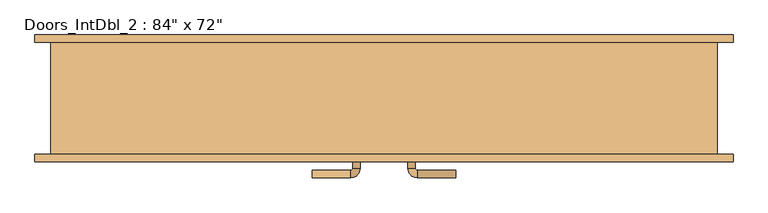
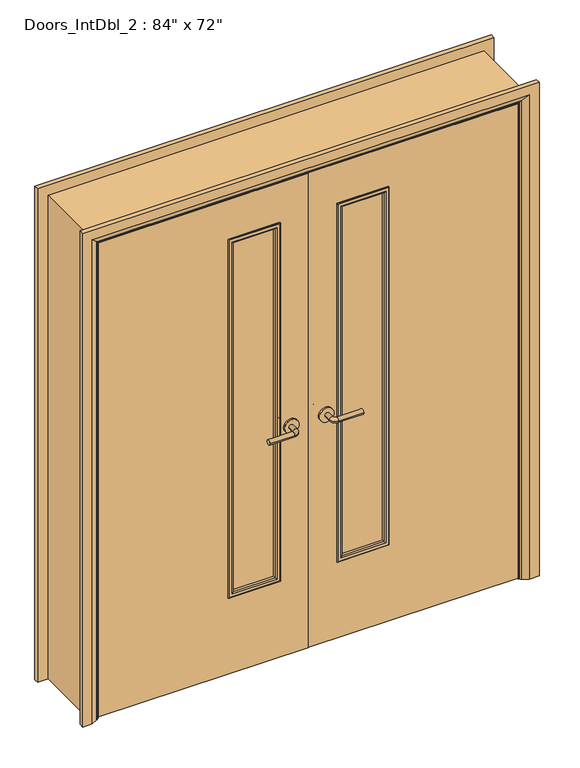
"""IFC4 building model written with IfcOpenShell, lengths in millimetres: door geometry."""

from ifc_helpers import new_model, si_unit, point, frame, frame_2d, origin, place, context, project, spatial, polyline, circle_curve, ellipse_curve, trimmed, segment, composite_curve, outline, extrude, faceted_brep, source, transform, mapped, element, save
from ifc_brep_helpers import plane_surface, cylinder_surface, revolved_surface, advanced_brep


def door_0f628c30(model_context):
    return source(origin(), model_context, "Body", "SolidModel", [
        advanced_brep(
        [(-65.0, -112.4, 1007.0), (-85.0, -112.4, 1007.0), (-85.0, -82.4, 1007.0), (-65.0, -82.4, 1007.0), (-90.0, -77.4, 1007.0), (-90.0, -57.4, 1007.0), (-195.0, -57.4, 1007.0), (-195.0, -77.4, 1007.0)],
        [
            (0, 1, circle_curve(frame((-75.0, -112.4, 1007.0), z_axis=(0.0, -1.0, 0.0), x_axis=(-1.0, 0.0, 0.0)), 10.0)),
            (1, 0, circle_curve(frame((-75.0, -112.4, 1007.0), z_axis=(0.0, -1.0, 0.0), x_axis=(-1.0, 0.0, 0.0)), 10.0)),
            (1, 2),
            (2, 3, circle_curve(frame((-75.0, -82.4, 1007.0), z_axis=(0.0, -1.0, 0.0), x_axis=(-1.0, 0.0, 0.0)), 10.0)),
            (3, 0),
            (3, 2, circle_curve(frame((-75.0, -82.4, 1007.0), z_axis=(0.0, -1.0, 0.0), x_axis=(-1.0, 0.0, 0.0)), 10.0)),
            (4, 5, circle_curve(frame((-90.0, -67.4, 1007.0), z_axis=(1.0, 0.0, 0.0), x_axis=(0.0, -1.0, 0.0)), 10.0)),
            (5, 3, circle_curve(frame((-90.0, -82.4, 1007.0), z_axis=(0.0, 0.0, -1.0), x_axis=(1.0, 0.0, 0.0)), 25.0)),
            (2, 4, circle_curve(frame((-90.0, -82.4, 1007.0), z_axis=(0.0, 0.0, 1.0), x_axis=(1.0, 0.0, 0.0)), 5.0)),
            (5, 4, circle_curve(frame((-90.0, -67.4, 1007.0), z_axis=(1.0, 0.0, 0.0), x_axis=(0.0, -1.0, 0.0)), 10.0)),
            (6, 7, circle_curve(frame((-195.0, -67.4, 1007.0), z_axis=(-1.0, 0.0, 0.0), x_axis=(0.0, -1.0, 0.0)), 10.0)),
            (7, 6, circle_curve(frame((-195.0, -67.4, 1007.0), z_axis=(-1.0, 0.0, 0.0), x_axis=(0.0, -1.0, 0.0)), 10.0)),
            (4, 7),
            (6, 5),
        ],
        [
            plane_surface(frame((-75.0, -112.4, 1007.0), z_axis=(0.0, -1.0, 0.0), x_axis=(0.0, 0.0, 1.0))),
            cylinder_surface(frame((-75.0, -112.4, 1007.0), z_axis=(0.0, -1.0, 0.0), x_axis=(-1.0, 0.0, 0.0)), 10.0),
            revolved_surface(trimmed(ellipse_curve(frame((-75.0, -82.4, 1007.0), z_axis=(0.0, 1.0, 0.0), x_axis=(-1.0, 0.0, 0.0)), 10.0, 10.0), [point((-65.0, -82.4, 1007.0))], [point((-85.0, -82.4, 1007.0))], True, "CARTESIAN"), (-90.0, -82.4, 1007.0), (0.0, 0.0, -1.0)),
            revolved_surface(trimmed(ellipse_curve(frame((-75.0, -82.4, 1007.0), z_axis=(0.0, 1.0, 0.0), x_axis=(-1.0, 0.0, 0.0)), 10.0, 10.0), [point((-85.0, -82.4, 1007.0))], [point((-65.0, -82.4, 1007.0))], True, "CARTESIAN"), (-90.0, -82.4, 1007.0), (0.0, 0.0, -1.0)),
            plane_surface(frame((-195.0, -67.4, 1007.0), z_axis=(-1.0, 0.0, 0.0), x_axis=(0.0, 0.0, 1.0))),
            cylinder_surface(frame((-90.0, -67.4, 1007.0), z_axis=(1.0, 0.0, 0.0), x_axis=(0.0, -1.0, 0.0)), 10.0),
        ],
        [
            (0, [[1, 2]]),
            (1, [[3, 4, 5, -2]]),
            (1, [[-5, 6, -3, -1]]),
            (2, [[7, 8, -4, 9]]),
            (3, [[10, -9, -6, -8]]),
            (4, [[11, 12]]),
            (5, [[13, -11, 14, -7]]),
            (5, [[-14, -12, -13, -10]]),
        ],
    ),
        extrude(outline(composite_curve([segment(trimmed(circle_curve(frame_2d((1007.0, -72.5)), 30.0), [point((1007.0, -42.5))], [point((1007.0, -102.5))], False, "CARTESIAN"), True, "CONTINUOUS"), segment(trimmed(circle_curve(frame_2d((1007.0, -72.5)), 30.0), [point((1007.0, -102.5))], [point((1007.0, -42.5))], False, "CARTESIAN"), True, "CONTINUOUS")], self_intersect=False)), frame((0.0, -120.4, 0.0), z_axis=(0.0, 1.0, 0.0), x_axis=(0.0, 0.0, 1.0)), (0.0, 0.0, 1.0), 8.0),
        advanced_brep(
        [(-65.0, -160.4, 1007.0), (-85.0, -160.4, 1007.0), (-65.0, -190.4, 1007.0), (-85.0, -190.4, 1007.0), (-90.0, -195.4, 1007.0), (-90.0, -215.4, 1007.0), (-195.0, -215.4, 1007.0), (-195.0, -195.4, 1007.0)],
        [
            (0, 1, circle_curve(frame((-75.0, -160.4, 1007.0), z_axis=(0.0, 1.0, 0.0), x_axis=(-1.0, 0.0, 0.0)), 10.0)),
            (1, 0, circle_curve(frame((-75.0, -160.4, 1007.0), z_axis=(0.0, 1.0, 0.0), x_axis=(-1.0, 0.0, 0.0)), 10.0)),
            (0, 2),
            (2, 3, circle_curve(frame((-75.0, -190.4, 1007.0), z_axis=(0.0, 1.0, 0.0), x_axis=(-1.0, 0.0, 0.0)), 10.0)),
            (3, 1),
            (3, 2, circle_curve(frame((-75.0, -190.4, 1007.0), z_axis=(0.0, 1.0, 0.0), x_axis=(-1.0, 0.0, 0.0)), 10.0)),
            (4, 3, circle_curve(frame((-90.0, -190.4, 1007.0), z_axis=(0.0, 0.0, 1.0), x_axis=(1.0, 0.0, 0.0)), 5.0)),
            (2, 5, circle_curve(frame((-90.0, -190.4, 1007.0), z_axis=(0.0, 0.0, -1.0), x_axis=(1.0, 0.0, 0.0)), 25.0)),
            (5, 4, circle_curve(frame((-90.0, -205.4, 1007.0), z_axis=(1.0, 0.0, 0.0), x_axis=(0.0, 1.0, 0.0)), 10.0)),
            (4, 5, circle_curve(frame((-90.0, -205.4, 1007.0), z_axis=(1.0, 0.0, 0.0), x_axis=(0.0, 1.0, 0.0)), 10.0)),
            (6, 7, circle_curve(frame((-195.0, -205.4, 1007.0), z_axis=(-1.0, 0.0, 0.0), x_axis=(0.0, 1.0, 0.0)), 10.0)),
            (7, 6, circle_curve(frame((-195.0, -205.4, 1007.0), z_axis=(-1.0, 0.0, 0.0), x_axis=(0.0, 1.0, 0.0)), 10.0)),
            (5, 6),
            (7, 4),
        ],
        [
            plane_surface(frame((-75.0, -160.4, 1007.0), z_axis=(0.0, 1.0, 0.0), x_axis=(0.0, 0.0, 1.0))),
            cylinder_surface(frame((-75.0, -160.4, 1007.0), z_axis=(0.0, 1.0, 0.0), x_axis=(-1.0, 0.0, 0.0)), 10.0),
            revolved_surface(trimmed(ellipse_curve(frame((-75.0, -190.4, 1007.0), z_axis=(0.0, 1.0, 0.0), x_axis=(-1.0, 0.0, 0.0)), 10.0, 10.0), [point((-65.0, -190.4, 1007.0))], [point((-85.0, -190.4, 1007.0))], True, "CARTESIAN"), (-90.0, -190.4, 1007.0), (0.0, 0.0, -1.0)),
            revolved_surface(trimmed(ellipse_curve(frame((-75.0, -190.4, 1007.0), z_axis=(0.0, 1.0, 0.0), x_axis=(-1.0, 0.0, 0.0)), 10.0, 10.0), [point((-85.0, -190.4, 1007.0))], [point((-65.0, -190.4, 1007.0))], True, "CARTESIAN"), (-90.0, -190.4, 1007.0), (0.0, 0.0, -1.0)),
            plane_surface(frame((-195.0, -205.4, 1007.0), z_axis=(-1.0, 0.0, 0.0), x_axis=(0.0, 0.0, 1.0))),
            cylinder_surface(frame((-90.0, -205.4, 1007.0), z_axis=(1.0, 0.0, 0.0), x_axis=(0.0, 1.0, 0.0)), 10.0),
        ],
        [
            (0, [[1, 2]]),
            (1, [[-1, 3, 4, 5]]),
            (1, [[-2, -5, 6, -3]]),
            (2, [[7, -4, 8, 9]]),
            (3, [[-8, -6, -7, 10]]),
            (4, [[11, 12]]),
            (5, [[-9, 13, -12, 14]]),
            (5, [[-10, -14, -11, -13]]),
        ],
    ),
        extrude(outline(composite_curve([segment(trimmed(circle_curve(frame_2d((1007.0, -72.5)), 30.0), [point((1007.0, -42.5))], [point((1007.0, -102.5))], False, "CARTESIAN"), True, "CONTINUOUS"), segment(trimmed(circle_curve(frame_2d((1007.0, -72.5)), 30.0), [point((1007.0, -102.5))], [point((1007.0, -42.5))], False, "CARTESIAN"), True, "CONTINUOUS")], self_intersect=False)), frame((0.0, -160.4, 0.0), z_axis=(0.0, 1.0, 0.0), x_axis=(0.0, 0.0, 1.0)), (0.0, 0.0, 1.0), 8.0),
        advanced_brep(
        [(65.0, -112.4, 1007.0), (85.0, -112.4, 1007.0), (65.0, -82.4, 1007.0), (85.0, -82.4, 1007.0), (90.0, -77.4, 1007.0), (90.0, -57.4, 1007.0), (195.0, -57.4, 1007.0), (195.0, -77.4, 1007.0)],
        [
            (0, 1, circle_curve(frame((75.0, -112.4, 1007.0), z_axis=(0.0, -1.0, 0.0), x_axis=(1.0, 0.0, 0.0)), 10.0)),
            (1, 0, circle_curve(frame((75.0, -112.4, 1007.0), z_axis=(0.0, -1.0, 0.0), x_axis=(1.0, 0.0, 0.0)), 10.0)),
            (0, 2),
            (2, 3, circle_curve(frame((75.0, -82.4, 1007.0), z_axis=(0.0, -1.0, 0.0), x_axis=(1.0, 0.0, 0.0)), 10.0)),
            (3, 1),
            (3, 2, circle_curve(frame((75.0, -82.4, 1007.0), z_axis=(0.0, -1.0, 0.0), x_axis=(1.0, 0.0, 0.0)), 10.0)),
            (4, 3, circle_curve(frame((90.0, -82.4, 1007.0), z_axis=(0.0, 0.0, 1.0), x_axis=(-1.0, 0.0, 0.0)), 5.0)),
            (2, 5, circle_curve(frame((90.0, -82.4, 1007.0), z_axis=(0.0, 0.0, -1.0), x_axis=(-1.0, 0.0, 0.0)), 25.0)),
            (5, 4, circle_curve(frame((90.0, -67.4, 1007.0), z_axis=(-1.0, 0.0, 0.0), x_axis=(0.0, -1.0, 0.0)), 10.0)),
            (4, 5, circle_curve(frame((90.0, -67.4, 1007.0), z_axis=(-1.0, 0.0, 0.0), x_axis=(0.0, -1.0, 0.0)), 10.0)),
            (6, 7, circle_curve(frame((195.0, -67.4, 1007.0), z_axis=(1.0, 0.0, 0.0), x_axis=(0.0, -1.0, 0.0)), 10.0)),
            (7, 6, circle_curve(frame((195.0, -67.4, 1007.0), z_axis=(1.0, 0.0, 0.0), x_axis=(0.0, -1.0, 0.0)), 10.0)),
            (5, 6),
            (7, 4),
        ],
        [
            plane_surface(frame((75.0, -112.4, 1007.0), z_axis=(0.0, -1.0, 0.0), x_axis=(0.0, 0.0, 1.0))),
            cylinder_surface(frame((75.0, -112.4, 1007.0), z_axis=(0.0, -1.0, 0.0), x_axis=(1.0, 0.0, 0.0)), 10.0),
            revolved_surface(trimmed(ellipse_curve(frame((75.0, -82.4, 1007.0), z_axis=(0.0, -1.0, 0.0), x_axis=(1.0, 0.0, 0.0)), 10.0, 10.0), [point((65.0, -82.4, 1007.0))], [point((85.0, -82.4, 1007.0))], True, "CARTESIAN"), (90.0, -82.4, 1007.0), (0.0, 0.0, -1.0)),
            revolved_surface(trimmed(ellipse_curve(frame((75.0, -82.4, 1007.0), z_axis=(0.0, -1.0, 0.0), x_axis=(1.0, 0.0, 0.0)), 10.0, 10.0), [point((85.0, -82.4, 1007.0))], [point((65.0, -82.4, 1007.0))], True, "CARTESIAN"), (90.0, -82.4, 1007.0), (0.0, 0.0, -1.0)),
            plane_surface(frame((195.0, -67.4, 1007.0), z_axis=(1.0, 0.0, 0.0), x_axis=(0.0, 0.0, 1.0))),
            cylinder_surface(frame((90.0, -67.4, 1007.0), z_axis=(-1.0, 0.0, 0.0), x_axis=(0.0, -1.0, 0.0)), 10.0),
        ],
        [
            (0, [[1, 2]]),
            (1, [[-1, 3, 4, 5]]),
            (1, [[-2, -5, 6, -3]]),
            (2, [[7, -4, 8, 9]]),
            (3, [[-8, -6, -7, 10]]),
            (4, [[11, 12]]),
            (5, [[-9, 13, -12, 14]]),
            (5, [[-10, -14, -11, -13]]),
        ],
    ),
        extrude(outline(composite_curve([segment(trimmed(circle_curve(frame_2d((1007.0, 72.5)), 30.0), [point((1007.0, 42.5))], [point((1007.0, 102.5))], False, "CARTESIAN"), True, "CONTINUOUS"), segment(trimmed(circle_curve(frame_2d((1007.0, 72.5)), 30.0), [point((1007.0, 102.5))], [point((1007.0, 42.5))], False, "CARTESIAN"), True, "CONTINUOUS")], self_intersect=False)), frame((0.0, -120.4, 0.0), z_axis=(0.0, 1.0, 0.0), x_axis=(0.0, 0.0, 1.0)), (0.0, 0.0, 1.0), 8.0),
        advanced_brep(
        [(65.0, -160.4, 1007.0), (85.0, -160.4, 1007.0), (85.0, -190.4, 1007.0), (65.0, -190.4, 1007.0), (90.0, -195.4, 1007.0), (90.0, -215.4, 1007.0), (195.0, -215.4, 1007.0), (195.0, -195.4, 1007.0)],
        [
            (0, 1, circle_curve(frame((75.0, -160.4, 1007.0), z_axis=(0.0, 1.0, 0.0), x_axis=(1.0, 0.0, 0.0)), 10.0)),
            (1, 0, circle_curve(frame((75.0, -160.4, 1007.0), z_axis=(0.0, 1.0, 0.0), x_axis=(1.0, 0.0, 0.0)), 10.0)),
            (1, 2),
            (2, 3, circle_curve(frame((75.0, -190.4, 1007.0), z_axis=(0.0, 1.0, 0.0), x_axis=(1.0, 0.0, 0.0)), 10.0)),
            (3, 0),
            (3, 2, circle_curve(frame((75.0, -190.4, 1007.0), z_axis=(0.0, 1.0, 0.0), x_axis=(1.0, 0.0, 0.0)), 10.0)),
            (4, 5, circle_curve(frame((90.0, -205.4, 1007.0), z_axis=(-1.0, 0.0, 0.0), x_axis=(0.0, 1.0, 0.0)), 10.0)),
            (5, 3, circle_curve(frame((90.0, -190.4, 1007.0), z_axis=(0.0, 0.0, -1.0), x_axis=(-1.0, 0.0, 0.0)), 25.0)),
            (2, 4, circle_curve(frame((90.0, -190.4, 1007.0), z_axis=(0.0, 0.0, 1.0), x_axis=(-1.0, 0.0, 0.0)), 5.0)),
            (5, 4, circle_curve(frame((90.0, -205.4, 1007.0), z_axis=(-1.0, 0.0, 0.0), x_axis=(0.0, 1.0, 0.0)), 10.0)),
            (6, 7, circle_curve(frame((195.0, -205.4, 1007.0), z_axis=(1.0, 0.0, 0.0), x_axis=(0.0, 1.0, 0.0)), 10.0)),
            (7, 6, circle_curve(frame((195.0, -205.4, 1007.0), z_axis=(1.0, 0.0, 0.0), x_axis=(0.0, 1.0, 0.0)), 10.0)),
            (4, 7),
            (6, 5),
        ],
        [
            plane_surface(frame((75.0, -160.4, 1007.0), z_axis=(0.0, 1.0, 0.0), x_axis=(0.0, 0.0, 1.0))),
            cylinder_surface(frame((75.0, -160.4, 1007.0), z_axis=(0.0, 1.0, 0.0), x_axis=(1.0, 0.0, 0.0)), 10.0),
            revolved_surface(trimmed(ellipse_curve(frame((75.0, -190.4, 1007.0), z_axis=(0.0, -1.0, 0.0), x_axis=(1.0, 0.0, 0.0)), 10.0, 10.0), [point((65.0, -190.4, 1007.0))], [point((85.0, -190.4, 1007.0))], True, "CARTESIAN"), (90.0, -190.4, 1007.0), (0.0, 0.0, -1.0)),
            revolved_surface(trimmed(ellipse_curve(frame((75.0, -190.4, 1007.0), z_axis=(0.0, -1.0, 0.0), x_axis=(1.0, 0.0, 0.0)), 10.0, 10.0), [point((85.0, -190.4, 1007.0))], [point((65.0, -190.4, 1007.0))], True, "CARTESIAN"), (90.0, -190.4, 1007.0), (0.0, 0.0, -1.0)),
            plane_surface(frame((195.0, -205.4, 1007.0), z_axis=(1.0, 0.0, 0.0), x_axis=(0.0, 0.0, 1.0))),
            cylinder_surface(frame((90.0, -205.4, 1007.0), z_axis=(-1.0, 0.0, 0.0), x_axis=(0.0, 1.0, 0.0)), 10.0),
        ],
        [
            (0, [[1, 2]]),
            (1, [[3, 4, 5, -2]]),
            (1, [[-5, 6, -3, -1]]),
            (2, [[7, 8, -4, 9]]),
            (3, [[10, -9, -6, -8]]),
            (4, [[11, 12]]),
            (5, [[13, -11, 14, -7]]),
            (5, [[-14, -12, -13, -10]]),
        ],
    ),
        extrude(outline(composite_curve([segment(trimmed(circle_curve(frame_2d((1007.0, 72.5)), 30.0), [point((1007.0, 42.5))], [point((1007.0, 102.5))], False, "CARTESIAN"), True, "CONTINUOUS"), segment(trimmed(circle_curve(frame_2d((1007.0, 72.5)), 30.0), [point((1007.0, 102.5))], [point((1007.0, 42.5))], False, "CARTESIAN"), True, "CONTINUOUS")], self_intersect=False)), frame((0.0, -160.4, 0.0), z_axis=(0.0, 1.0, 0.0), x_axis=(0.0, 0.0, 1.0)), (0.0, 0.0, 1.0), 8.0),
        advanced_brep(
        [(-949.4, 172.4, 0.0), (-909.4, 172.4, 0.0), (-883.4, 158.4, 0.0), (-879.4, 152.4, 0.0), (-949.4, 152.4, 0.0), (-949.4, 152.4, 2168.6), (-949.4, 172.4, 2168.6), (-879.4, 152.4, 2098.6), (879.4, 152.4, 2098.6), (879.4, 152.4, 0.0), (949.4, 152.4, 0.0), (949.4, 152.4, 2168.6), (-883.4, 158.4, 2102.6), (-909.4, 172.4, 2128.6), (949.4, 172.4, 2168.6), (949.4, 172.4, 0.0), (909.4, 172.4, 0.0), (909.4, 172.4, 2128.6), (883.4, 158.4, 0.0), (883.4, 158.4, 2102.6)],
        [
            (0, 1),
            (1, 2),
            (2, 3, circle_curve(frame((-887.4, 151.4, 0.0), z_axis=(0.0, 0.0, -1.0), x_axis=(-1.0, 0.0, 0.0)), 8.0622577)),
            (3, 4),
            (4, 0),
            (4, 5),
            (5, 6),
            (6, 0),
            (3, 7),
            (7, 8),
            (8, 9),
            (9, 10),
            (10, 11),
            (11, 5),
            (2, 12),
            (12, 7, ellipse_curve(frame((-887.4, 151.4, 2106.6), z_axis=(-0.7071067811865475, 0.0, -0.7071067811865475), x_axis=(0.7071067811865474, 0.0, -0.7071067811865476)), 11.4017543, 8.0622577)),
            (1, 13),
            (13, 12),
            (6, 14),
            (14, 15),
            (15, 16),
            (16, 17),
            (17, 13),
            (10, 15),
            (14, 11),
            (9, 18, circle_curve(frame((887.4, 151.4, 0.0), z_axis=(0.0, 0.0, -1.0), x_axis=(1.0, 0.0, 0.0)), 8.0622577)),
            (18, 16),
            (19, 18),
            (8, 19, ellipse_curve(frame((887.4, 151.4, 2106.6), z_axis=(0.7071067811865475, 0.0, -0.7071067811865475), x_axis=(0.7071067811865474, 0.0, 0.7071067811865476)), 11.4017543, 8.0622577)),
            (19, 17),
            (12, 19),
        ],
        [
            plane_surface(frame((-879.4, 152.4, 0.0), z_axis=(0.0, 0.0, -1.0), x_axis=(0.0, 1.0, 0.0))),
            plane_surface(frame((-949.4, 172.4, 0.0), z_axis=(-1.0, 0.0, 0.0), x_axis=(0.0, 0.0, 1.0))),
            plane_surface(frame((-949.4, 152.4, 0.0), z_axis=(0.0, -1.0, 0.0), x_axis=(0.0, 0.0, 1.0))),
            cylinder_surface(frame((-887.4, 151.4, 0.0), z_axis=(0.0, 0.0, -1.0), x_axis=(-1.0, 0.0, 0.0)), 8.0622577),
            plane_surface(frame((-883.4, 158.4, 0.0), z_axis=(0.4740998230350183, 0.8804710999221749, 0.0), x_axis=(0.0, 0.0, 1.0))),
            plane_surface(frame((-909.4, 172.4, 0.0), z_axis=(0.0, 1.0, 0.0), x_axis=(0.0, 0.0, 1.0))),
            plane_surface(frame((949.4, 172.4, 2168.6), z_axis=(1.0, 0.0, 0.0), x_axis=(0.0, 0.0, -1.0))),
            plane_surface(frame((879.4, 152.4, 0.0), z_axis=(0.0, 0.0, -1.0), x_axis=(0.0, 1.0, 0.0))),
            cylinder_surface(frame((887.4, 151.4, 2098.6), z_axis=(0.0, 0.0, 1.0), x_axis=(1.0, 0.0, 0.0)), 8.0622577),
            plane_surface(frame((883.4, 158.4, 2102.6), z_axis=(-0.4740998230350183, 0.8804710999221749, 0.0), x_axis=(0.0, 0.0, -1.0))),
            plane_surface(frame((-949.4, 172.4, 2168.6), z_axis=(0.0, 0.0, 1.0), x_axis=(1.0, 0.0, 0.0))),
            cylinder_surface(frame((-879.4, 151.4, 2106.6), z_axis=(-1.0, 0.0, 0.0), x_axis=(0.0, 0.0, 1.0)), 8.0622577),
            plane_surface(frame((-883.4, 158.4, 2102.6), z_axis=(0.0, 0.8804710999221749, -0.4740998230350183), x_axis=(1.0, 0.0, 0.0))),
        ],
        [
            (0, [[1, 2, 3, 4, 5]]),
            (1, [[6, 7, 8, -5]]),
            (2, [[9, 10, 11, 12, 13, 14, -6, -4]]),
            (3, [[15, 16, -9, -3]]),
            (4, [[17, 18, -15, -2]]),
            (5, [[-8, 19, 20, 21, 22, 23, -17, -1]]),
            (6, [[-13, 24, -20, 25]]),
            (7, [[-24, -12, 26, 27, -21]]),
            (8, [[28, -26, -11, 29]]),
            (9, [[-22, -27, -28, 30]]),
            (10, [[-14, -25, -19, -7]]),
            (11, [[31, -29, -10, -16]]),
            (12, [[-23, -30, -31, -18]]),
        ],
    ),
        advanced_brep(
        [(949.4, -172.4, 0.0), (909.4, -172.4, 0.0), (883.4, -158.4, 0.0), (879.4, -152.4, 0.0), (949.4, -152.4, 0.0), (949.4, -152.4, 2168.6), (949.4, -172.4, 2168.6), (879.4, -152.4, 2098.6), (-879.4, -152.4, 2098.6), (-879.4, -152.4, 0.0), (-949.4, -152.4, 0.0), (-949.4, -152.4, 2168.6), (883.4, -158.4, 2102.6), (909.4, -172.4, 2128.6), (-949.4, -172.4, 2168.6), (-949.4, -172.4, 0.0), (-909.4, -172.4, 0.0), (-909.4, -172.4, 2128.6), (-883.4, -158.4, 0.0), (-883.4, -158.4, 2102.6)],
        [
            (0, 1),
            (1, 2),
            (2, 3, circle_curve(frame((887.4, -151.4, 0.0), z_axis=(0.0, 0.0, -1.0), x_axis=(1.0, 0.0, 0.0)), 8.0622577)),
            (3, 4),
            (4, 0),
            (4, 5),
            (5, 6),
            (6, 0),
            (3, 7),
            (7, 8),
            (8, 9),
            (9, 10),
            (10, 11),
            (11, 5),
            (2, 12),
            (12, 7, ellipse_curve(frame((887.4, -151.4, 2106.6), z_axis=(0.7071067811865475, 0.0, -0.7071067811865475), x_axis=(-0.7071067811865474, 0.0, -0.7071067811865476)), 11.4017543, 8.0622577)),
            (1, 13),
            (13, 12),
            (6, 14),
            (14, 15),
            (15, 16),
            (16, 17),
            (17, 13),
            (10, 15),
            (14, 11),
            (9, 18, circle_curve(frame((-887.4, -151.4, 0.0), z_axis=(0.0, 0.0, -1.0), x_axis=(-1.0, 0.0, 0.0)), 8.0622577)),
            (18, 16),
            (19, 18),
            (8, 19, ellipse_curve(frame((-887.4, -151.4, 2106.6), z_axis=(-0.7071067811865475, 0.0, -0.7071067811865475), x_axis=(-0.7071067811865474, 0.0, 0.7071067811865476)), 11.4017543, 8.0622577)),
            (19, 17),
            (12, 19),
        ],
        [
            plane_surface(frame((879.4, -152.4, 0.0), z_axis=(0.0, 0.0, -1.0), x_axis=(0.0, 1.0, 0.0))),
            plane_surface(frame((949.4, -172.4, 0.0), z_axis=(1.0, 0.0, 0.0), x_axis=(0.0, 0.0, 1.0))),
            plane_surface(frame((949.4, -152.4, 0.0), z_axis=(0.0, 1.0, 0.0), x_axis=(0.0, 0.0, 1.0))),
            cylinder_surface(frame((887.4, -151.4, 0.0), z_axis=(0.0, 0.0, -1.0), x_axis=(1.0, 0.0, 0.0)), 8.0622577),
            plane_surface(frame((883.4, -158.4, 0.0), z_axis=(-0.4740998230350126, -0.8804710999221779, 0.0), x_axis=(0.0, 0.0, 1.0))),
            plane_surface(frame((909.4, -172.4, 0.0), z_axis=(0.0, -1.0, 0.0), x_axis=(0.0, 0.0, 1.0))),
            plane_surface(frame((-949.4, -172.4, 2168.6), z_axis=(-1.0, 0.0, 0.0), x_axis=(0.0, 0.0, -1.0))),
            plane_surface(frame((-879.4, -152.4, 0.0), z_axis=(0.0, 0.0, -1.0), x_axis=(0.0, 1.0, 0.0))),
            cylinder_surface(frame((-887.4, -151.4, 2098.6), z_axis=(0.0, 0.0, 1.0), x_axis=(-1.0, 0.0, 0.0)), 8.0622577),
            plane_surface(frame((-883.4, -158.4, 2102.6), z_axis=(0.4740998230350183, -0.8804710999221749, 0.0), x_axis=(0.0, 0.0, -1.0))),
            plane_surface(frame((949.4, -172.4, 2168.6), z_axis=(0.0, 0.0, 1.0), x_axis=(-1.0, 0.0, 0.0))),
            cylinder_surface(frame((879.4, -151.4, 2106.6), z_axis=(1.0, 0.0, 0.0), x_axis=(0.0, 0.0, 1.0)), 8.0622577),
            plane_surface(frame((883.4, -158.4, 2102.6), z_axis=(0.0, -0.8804710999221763, -0.4740998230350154), x_axis=(-1.0, 0.0, 0.0))),
        ],
        [
            (0, [[1, 2, 3, 4, 5]]),
            (1, [[6, 7, 8, -5]]),
            (2, [[9, 10, 11, 12, 13, 14, -6, -4]]),
            (3, [[15, 16, -9, -3]]),
            (4, [[17, 18, -15, -2]]),
            (5, [[-8, 19, 20, 21, 22, 23, -17, -1]]),
            (6, [[-13, 24, -20, 25]]),
            (7, [[-24, -12, 26, 27, -21]]),
            (8, [[28, -26, -11, 29]]),
            (9, [[-22, -27, -28, 30]]),
            (10, [[-14, -25, -19, -7]]),
            (11, [[31, -29, -10, -16]]),
            (12, [[-23, -30, -31, -18]]),
        ],
    ),
        faceted_brep([(-855.4, -117.4, 0.0), (-874.4, -117.4, 0.0), (-874.4, -85.4, 0.0), (-855.4, -85.4, 0.0), (-855.4, -85.4, 2074.6), (-855.4, -117.4, 2074.6), (-874.4, -85.4, 2093.6), (-874.4, -117.4, 2093.6), (855.4, -117.4, 0.0), (855.4, -85.4, 0.0), (874.4, -85.4, 0.0), (874.4, -117.4, 0.0), (855.4, -117.4, 2074.6), (874.4, -117.4, 2093.6), (874.4, -85.4, 2093.6), (855.4, -85.4, 2074.6)], [[[0, 1, 2, 3]], [[3, 4, 5, 0]], [[2, 6, 4, 3]], [[1, 7, 6, 2]], [[0, 5, 7, 1]], [[8, 9, 10, 11]], [[12, 8, 11, 13]], [[13, 11, 10, 14]], [[14, 10, 9, 15]], [[15, 9, 8, 12]], [[4, 15, 12, 5]], [[6, 14, 15, 4]], [[7, 13, 14, 6]], [[5, 12, 13, 7]]]),
        extrude(outline(polyline([(2125.6, -906.4), (0.0, -906.4), (0.0, -874.4), (2093.6, -874.4), (2093.6, 874.4), (0.0, 874.4), (0.0, 906.4), (2125.6, 906.4), (2125.6, -906.4)])), frame((0.0, -152.4, 0.0), z_axis=(0.0, 1.0, 0.0), x_axis=(0.0, 0.0, 1.0)), (0.0, 0.0, 1.0), 304.8),
        extrude(outline(polyline([(326.5, -130.4), (326.5, -142.4), (126.5, -142.4), (126.5, -130.4), (326.5, -130.4)])), frame((0.0, 0.0, 350.0), z_axis=(0.0, 0.0, 1.0), x_axis=(1.0, 0.0, 0.0)), (0.0, 0.0, 1.0), 1558.6),
        extrude(outline(polyline([(-126.5, -130.4), (-126.5, -142.4), (-326.5, -142.4), (-326.5, -130.4), (-126.5, -130.4)])), frame((0.0, 0.0, 350.0), z_axis=(0.0, 0.0, 1.0), x_axis=(1.0, 0.0, 0.0)), (0.0, 0.0, 1.0), 1558.6),
        extrude(outline(polyline([(5.753223, -871.4), (5.753223, -1.5), (2090.6, -1.5), (2090.6, -871.4), (5.753223, -871.4)]), holes=[polyline([(1908.6, -326.5), (1908.6, -126.5), (350.0, -126.5), (350.0, -326.5), (1908.6, -326.5)])]), frame((0.0, -152.4, 0.0), z_axis=(0.0, 1.0, 0.0), x_axis=(0.0, 0.0, 1.0)), (0.0, 0.0, 1.0), 32.0),
        extrude(outline(polyline([(5.753223, 871.4), (2090.6, 871.4), (2090.6, 1.5), (5.753223, 1.5), (5.753223, 871.4)]), holes=[polyline([(1908.6, 126.5), (1908.6, 326.5), (350.0, 326.5), (350.0, 126.5), (1908.6, 126.5)])]), frame((0.0, -152.4, 0.0), z_axis=(0.0, 1.0, 0.0), x_axis=(0.0, 0.0, 1.0)), (0.0, 0.0, 1.0), 32.0),
        advanced_brep(
        [(326.5, -130.4, 1908.6), (326.5, -130.4, 350.0), (326.5, -120.4, 350.0), (326.5, -120.4, 1908.6), (314.5, -119.4, 1896.6), (314.5, -119.4, 362.0), (314.5, -130.4, 362.0), (314.5, -130.4, 1896.6), (319.5, -114.4, 1901.6), (319.5, -114.4, 357.0), (334.5, -116.4, 1916.6), (334.5, -116.4, 342.0), (332.5, -114.4, 344.0), (332.5, -114.4, 1914.6), (334.5, -120.4, 1916.6), (334.5, -120.4, 342.0), (126.5, -130.4, 350.0), (126.5, -120.4, 350.0), (138.5, -119.4, 362.0), (138.5, -130.4, 362.0), (133.5, -114.4, 357.0), (118.5, -116.4, 342.0), (120.5, -114.4, 344.0), (118.5, -120.4, 342.0), (126.5, -130.4, 1908.6), (126.5, -120.4, 1908.6), (138.5, -119.4, 1896.6), (138.5, -130.4, 1896.6), (133.5, -114.4, 1901.6), (118.5, -116.4, 1916.6), (120.5, -114.4, 1914.6), (118.5, -120.4, 1916.6)],
        [
            (0, 1),
            (1, 2),
            (2, 3),
            (3, 0),
            (4, 5),
            (5, 6),
            (6, 7),
            (7, 4),
            (8, 9),
            (9, 5, ellipse_curve(frame((319.5, -119.4, 357.0), z_axis=(0.7071067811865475, 0.0, 0.7071067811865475), x_axis=(-0.7071067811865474, 0.0, 0.7071067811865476)), 7.0710678, 5.0)),
            (4, 8, ellipse_curve(frame((319.5, -119.4, 1901.6), z_axis=(0.7071067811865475, 0.0, -0.7071067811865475), x_axis=(0.7071067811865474, 0.0, 0.7071067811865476)), 7.0710678, 5.0)),
            (10, 11),
            (11, 12, ellipse_curve(frame((332.5, -116.4, 344.0), z_axis=(0.7071067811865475, 0.0, 0.7071067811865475), x_axis=(-0.7071067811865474, 0.0, 0.7071067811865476)), 2.8284271, 2.0)),
            (12, 13),
            (13, 10, ellipse_curve(frame((332.5, -116.4, 1914.6), z_axis=(0.7071067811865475, 0.0, -0.7071067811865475), x_axis=(0.7071067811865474, 0.0, 0.7071067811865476)), 2.8284271, 2.0)),
            (14, 15),
            (15, 11),
            (10, 14),
            (1, 16),
            (16, 17),
            (17, 2),
            (5, 18),
            (18, 19),
            (19, 6),
            (9, 20),
            (20, 18, ellipse_curve(frame((133.5, -119.4, 357.0), z_axis=(0.7071067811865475, 0.0, -0.7071067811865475), x_axis=(0.7071067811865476, 0.0, 0.7071067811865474)), 7.0710678, 5.0)),
            (11, 21),
            (21, 22, ellipse_curve(frame((120.5, -116.4, 344.0), z_axis=(0.7071067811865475, 0.0, -0.7071067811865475), x_axis=(0.7071067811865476, 0.0, 0.7071067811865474)), 2.8284271, 2.0)),
            (22, 12),
            (15, 23),
            (23, 21),
            (16, 24),
            (24, 25),
            (25, 17),
            (18, 26),
            (26, 27),
            (27, 19),
            (20, 28),
            (28, 26, ellipse_curve(frame((133.5, -119.4, 1901.6), z_axis=(-0.7071067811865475, 0.0, -0.7071067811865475), x_axis=(0.7071067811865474, 0.0, -0.7071067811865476)), 7.0710678, 5.0)),
            (21, 29),
            (29, 30, ellipse_curve(frame((120.5, -116.4, 1914.6), z_axis=(-0.7071067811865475, 0.0, -0.7071067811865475), x_axis=(0.7071067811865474, 0.0, -0.7071067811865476)), 2.8284271, 2.0)),
            (30, 22),
            (23, 31),
            (31, 29),
            (14, 31),
            (25, 3),
            (24, 0),
            (27, 7),
            (26, 4),
            (28, 8),
            (30, 13),
            (29, 10),
        ],
        [
            plane_surface(frame((326.5, -120.4, 1908.6), z_axis=(1.0, 0.0, 0.0), x_axis=(0.0, 0.0, -1.0))),
            plane_surface(frame((314.5, -130.4, 1896.6), z_axis=(-1.0, 0.0, 0.0), x_axis=(0.0, 0.0, -1.0))),
            cylinder_surface(frame((319.5, -119.4, 1908.6), z_axis=(0.0, 0.0, 1.0), x_axis=(1.0, 0.0, 0.0)), 5.0),
            cylinder_surface(frame((332.5, -116.4, 1908.6), z_axis=(0.0, 0.0, 1.0), x_axis=(1.0, 0.0, 0.0)), 2.0),
            plane_surface(frame((334.5, -116.4, 1916.6), z_axis=(1.0, 0.0, 0.0), x_axis=(0.0, 0.0, -1.0))),
            plane_surface(frame((326.5, -120.4, 350.0), z_axis=(0.0, 0.0, -1.0), x_axis=(-1.0, 0.0, 0.0))),
            plane_surface(frame((314.5, -130.4, 362.0), z_axis=(0.0, 0.0, 1.0), x_axis=(-1.0, 0.0, 0.0))),
            cylinder_surface(frame((326.5, -119.4, 357.0), z_axis=(1.0, 0.0, 0.0), x_axis=(0.0, 0.0, -1.0)), 5.0),
            cylinder_surface(frame((326.5, -116.4, 344.0), z_axis=(1.0, 0.0, 0.0), x_axis=(0.0, 0.0, -1.0)), 2.0),
            plane_surface(frame((334.5, -116.4, 342.0), z_axis=(0.0, 0.0, -1.0), x_axis=(-1.0, 0.0, 0.0))),
            plane_surface(frame((126.5, -120.4, 350.0), z_axis=(-1.0, 0.0, 0.0), x_axis=(0.0, 0.0, 1.0))),
            plane_surface(frame((138.5, -130.4, 362.0), z_axis=(1.0, 0.0, 0.0), x_axis=(0.0, 0.0, 1.0))),
            cylinder_surface(frame((133.5, -119.4, 350.0), z_axis=(0.0, 0.0, -1.0), x_axis=(-1.0, 0.0, 0.0)), 5.0),
            cylinder_surface(frame((120.5, -116.4, 350.0), z_axis=(0.0, 0.0, -1.0), x_axis=(-1.0, 0.0, 0.0)), 2.0),
            plane_surface(frame((118.5, -116.4, 342.0), z_axis=(-1.0, 0.0, 0.0), x_axis=(0.0, 0.0, 1.0))),
            plane_surface(frame((118.5, -120.4, 1916.6), z_axis=(0.0, -1.0, 0.0), x_axis=(1.0, 0.0, 0.0))),
            plane_surface(frame((126.5, -120.4, 1908.6), z_axis=(0.0, 0.0, 1.0), x_axis=(1.0, 0.0, 0.0))),
            plane_surface(frame((126.5, -130.4, 1908.6), z_axis=(0.0, -1.0, 0.0), x_axis=(1.0, 0.0, 0.0))),
            plane_surface(frame((138.5, -130.4, 1896.6), z_axis=(0.0, 0.0, -1.0), x_axis=(1.0, 0.0, 0.0))),
            cylinder_surface(frame((126.5, -119.4, 1901.6), z_axis=(-1.0, 0.0, 0.0), x_axis=(0.0, 0.0, 1.0)), 5.0),
            plane_surface(frame((133.5, -114.4, 1901.6), z_axis=(0.0, 1.0, 0.0), x_axis=(1.0, 0.0, 0.0))),
            cylinder_surface(frame((126.5, -116.4, 1914.6), z_axis=(-1.0, 0.0, 0.0), x_axis=(0.0, 0.0, 1.0)), 2.0),
            plane_surface(frame((118.5, -116.4, 1916.6), z_axis=(0.0, 0.0, 1.0), x_axis=(1.0, 0.0, 0.0))),
        ],
        [
            (0, [[1, 2, 3, 4]]),
            (1, [[5, 6, 7, 8]]),
            (2, [[9, 10, -5, 11]]),
            (3, [[12, 13, 14, 15]]),
            (4, [[16, 17, -12, 18]]),
            (5, [[19, 20, 21, -2]]),
            (6, [[22, 23, 24, -6]]),
            (7, [[25, 26, -22, -10]]),
            (8, [[27, 28, 29, -13]]),
            (9, [[30, 31, -27, -17]]),
            (10, [[32, 33, 34, -20]]),
            (11, [[35, 36, 37, -23]]),
            (12, [[38, 39, -35, -26]]),
            (13, [[40, 41, 42, -28]]),
            (14, [[43, 44, -40, -31]]),
            (15, [[-16, 45, -43, -30], [-3, -21, -34, 46]]),
            (16, [[47, -4, -46, -33]]),
            (17, [[-1, -47, -32, -19], [-7, -24, -37, 48]]),
            (18, [[49, -8, -48, -36]]),
            (19, [[50, -11, -49, -39]]),
            (20, [[-14, -29, -42, 51], [-9, -50, -38, -25]]),
            (21, [[52, -15, -51, -41]]),
            (22, [[-45, -18, -52, -44]]),
        ],
    ),
        advanced_brep(
        [(-326.5, -130.4, 350.0), (-326.5, -130.4, 1908.6), (-326.5, -120.4, 1908.6), (-326.5, -120.4, 350.0), (-314.5, -119.4, 362.0), (-314.5, -119.4, 1896.6), (-314.5, -130.4, 1896.6), (-314.5, -130.4, 362.0), (-319.5, -114.4, 357.0), (-319.5, -114.4, 1901.6), (-334.5, -116.4, 342.0), (-334.5, -116.4, 1916.6), (-332.5, -114.4, 1914.6), (-332.5, -114.4, 344.0), (-334.5, -120.4, 342.0), (-334.5, -120.4, 1916.6), (-126.5, -130.4, 1908.6), (-126.5, -120.4, 1908.6), (-138.5, -119.4, 1896.6), (-138.5, -130.4, 1896.6), (-133.5, -114.4, 1901.6), (-118.5, -116.4, 1916.6), (-120.5, -114.4, 1914.6), (-118.5, -120.4, 1916.6), (-126.5, -130.4, 350.0), (-126.5, -120.4, 350.0), (-138.5, -119.4, 362.0), (-138.5, -130.4, 362.0), (-133.5, -114.4, 357.0), (-118.5, -116.4, 342.0), (-120.5, -114.4, 344.0), (-118.5, -120.4, 342.0)],
        [
            (0, 1),
            (1, 2),
            (2, 3),
            (3, 0),
            (4, 5),
            (5, 6),
            (6, 7),
            (7, 4),
            (8, 9),
            (9, 5, ellipse_curve(frame((-319.5, -119.4, 1901.6), z_axis=(-0.7071067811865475, 0.0, -0.7071067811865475), x_axis=(0.7071067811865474, 0.0, -0.7071067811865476)), 7.0710678, 5.0)),
            (4, 8, ellipse_curve(frame((-319.5, -119.4, 357.0), z_axis=(-0.7071067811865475, 0.0, 0.7071067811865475), x_axis=(-0.7071067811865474, 0.0, -0.7071067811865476)), 7.0710678, 5.0)),
            (10, 11),
            (11, 12, ellipse_curve(frame((-332.5, -116.4, 1914.6), z_axis=(-0.7071067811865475, 0.0, -0.7071067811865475), x_axis=(0.7071067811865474, 0.0, -0.7071067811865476)), 2.8284271, 2.0)),
            (12, 13),
            (13, 10, ellipse_curve(frame((-332.5, -116.4, 344.0), z_axis=(-0.7071067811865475, 0.0, 0.7071067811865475), x_axis=(-0.7071067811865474, 0.0, -0.7071067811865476)), 2.8284271, 2.0)),
            (14, 15),
            (15, 11),
            (10, 14),
            (1, 16),
            (16, 17),
            (17, 2),
            (5, 18),
            (18, 19),
            (19, 6),
            (9, 20),
            (20, 18, ellipse_curve(frame((-133.5, -119.4, 1901.6), z_axis=(-0.7071067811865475, 0.0, 0.7071067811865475), x_axis=(-0.7071067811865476, 0.0, -0.7071067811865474)), 7.0710678, 5.0)),
            (11, 21),
            (21, 22, ellipse_curve(frame((-120.5, -116.4, 1914.6), z_axis=(-0.7071067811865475, 0.0, 0.7071067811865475), x_axis=(-0.7071067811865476, 0.0, -0.7071067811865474)), 2.8284271, 2.0)),
            (22, 12),
            (15, 23),
            (23, 21),
            (16, 24),
            (24, 25),
            (25, 17),
            (18, 26),
            (26, 27),
            (27, 19),
            (20, 28),
            (28, 26, ellipse_curve(frame((-133.5, -119.4, 357.0), z_axis=(0.7071067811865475, 0.0, 0.7071067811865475), x_axis=(-0.7071067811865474, 0.0, 0.7071067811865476)), 7.0710678, 5.0)),
            (21, 29),
            (29, 30, ellipse_curve(frame((-120.5, -116.4, 344.0), z_axis=(0.7071067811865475, 0.0, 0.7071067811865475), x_axis=(-0.7071067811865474, 0.0, 0.7071067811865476)), 2.8284271, 2.0)),
            (30, 22),
            (23, 31),
            (31, 29),
            (14, 31),
            (25, 3),
            (24, 0),
            (27, 7),
            (26, 4),
            (28, 8),
            (30, 13),
            (29, 10),
        ],
        [
            plane_surface(frame((-326.5, -120.4, 350.0), z_axis=(-1.0, 0.0, 0.0), x_axis=(0.0, 0.0, 1.0))),
            plane_surface(frame((-314.5, -130.4, 362.0), z_axis=(1.0, 0.0, 0.0), x_axis=(0.0, 0.0, 1.0))),
            cylinder_surface(frame((-319.5, -119.4, 350.0), z_axis=(0.0, 0.0, -1.0), x_axis=(-1.0, 0.0, 0.0)), 5.0),
            cylinder_surface(frame((-332.5, -116.4, 350.0), z_axis=(0.0, 0.0, -1.0), x_axis=(-1.0, 0.0, 0.0)), 2.0),
            plane_surface(frame((-334.5, -116.4, 342.0), z_axis=(-1.0, 0.0, 0.0), x_axis=(0.0, 0.0, 1.0))),
            plane_surface(frame((-326.5, -120.4, 1908.6), z_axis=(0.0, 0.0, 1.0), x_axis=(1.0, 0.0, 0.0))),
            plane_surface(frame((-314.5, -130.4, 1896.6), z_axis=(0.0, 0.0, -1.0), x_axis=(1.0, 0.0, 0.0))),
            cylinder_surface(frame((-326.5, -119.4, 1901.6), z_axis=(-1.0, 0.0, 0.0), x_axis=(0.0, 0.0, 1.0)), 5.0),
            cylinder_surface(frame((-326.5, -116.4, 1914.6), z_axis=(-1.0, 0.0, 0.0), x_axis=(0.0, 0.0, 1.0)), 2.0),
            plane_surface(frame((-334.5, -116.4, 1916.6), z_axis=(0.0, 0.0, 1.0), x_axis=(1.0, 0.0, 0.0))),
            plane_surface(frame((-126.5, -120.4, 1908.6), z_axis=(1.0, 0.0, 0.0), x_axis=(0.0, 0.0, -1.0))),
            plane_surface(frame((-138.5, -130.4, 1896.6), z_axis=(-1.0, 0.0, 0.0), x_axis=(0.0, 0.0, -1.0))),
            cylinder_surface(frame((-133.5, -119.4, 1908.6), z_axis=(0.0, 0.0, 1.0), x_axis=(1.0, 0.0, 0.0)), 5.0),
            cylinder_surface(frame((-120.5, -116.4, 1908.6), z_axis=(0.0, 0.0, 1.0), x_axis=(1.0, 0.0, 0.0)), 2.0),
            plane_surface(frame((-118.5, -116.4, 1916.6), z_axis=(1.0, 0.0, 0.0), x_axis=(0.0, 0.0, -1.0))),
            plane_surface(frame((-118.5, -120.4, 342.0), z_axis=(0.0, -1.0, 0.0), x_axis=(-1.0, 0.0, 0.0))),
            plane_surface(frame((-126.5, -120.4, 350.0), z_axis=(0.0, 0.0, -1.0), x_axis=(-1.0, 0.0, 0.0))),
            plane_surface(frame((-126.5, -130.4, 350.0), z_axis=(0.0, -1.0, 0.0), x_axis=(-1.0, 0.0, 0.0))),
            plane_surface(frame((-138.5, -130.4, 362.0), z_axis=(0.0, 0.0, 1.0), x_axis=(-1.0, 0.0, 0.0))),
            cylinder_surface(frame((-126.5, -119.4, 357.0), z_axis=(1.0, 0.0, 0.0), x_axis=(0.0, 0.0, -1.0)), 5.0),
            plane_surface(frame((-133.5, -114.4, 357.0), z_axis=(0.0, 1.0, 0.0), x_axis=(-1.0, 0.0, 0.0))),
            cylinder_surface(frame((-126.5, -116.4, 344.0), z_axis=(1.0, 0.0, 0.0), x_axis=(0.0, 0.0, -1.0)), 2.0),
            plane_surface(frame((-118.5, -116.4, 342.0), z_axis=(0.0, 0.0, -1.0), x_axis=(-1.0, 0.0, 0.0))),
        ],
        [
            (0, [[1, 2, 3, 4]]),
            (1, [[5, 6, 7, 8]]),
            (2, [[9, 10, -5, 11]]),
            (3, [[12, 13, 14, 15]]),
            (4, [[16, 17, -12, 18]]),
            (5, [[19, 20, 21, -2]]),
            (6, [[22, 23, 24, -6]]),
            (7, [[25, 26, -22, -10]]),
            (8, [[27, 28, 29, -13]]),
            (9, [[30, 31, -27, -17]]),
            (10, [[32, 33, 34, -20]]),
            (11, [[35, 36, 37, -23]]),
            (12, [[38, 39, -35, -26]]),
            (13, [[40, 41, 42, -28]]),
            (14, [[43, 44, -40, -31]]),
            (15, [[-16, 45, -43, -30], [-3, -21, -34, 46]]),
            (16, [[47, -4, -46, -33]]),
            (17, [[-1, -47, -32, -19], [-7, -24, -37, 48]]),
            (18, [[49, -8, -48, -36]]),
            (19, [[50, -11, -49, -39]]),
            (20, [[-14, -29, -42, 51], [-9, -50, -38, -25]]),
            (21, [[52, -15, -51, -41]]),
            (22, [[-45, -18, -52, -44]]),
        ],
    ),
        advanced_brep(
        [(326.5, -142.4, 350.0), (326.5, -142.4, 1908.6), (326.5, -152.4, 1908.6), (326.5, -152.4, 350.0), (314.5, -153.4, 362.0), (314.5, -153.4, 1896.6), (314.5, -142.4, 1896.6), (314.5, -142.4, 362.0), (319.5, -158.4, 357.0), (319.5, -158.4, 1901.6), (334.5, -156.4, 342.0), (334.5, -156.4, 1916.6), (332.5, -158.4, 1914.6), (332.5, -158.4, 344.0), (334.5, -152.4, 342.0), (334.5, -152.4, 1916.6), (126.5, -142.4, 1908.6), (126.5, -152.4, 1908.6), (138.5, -153.4, 1896.6), (138.5, -142.4, 1896.6), (133.5, -158.4, 1901.6), (118.5, -156.4, 1916.6), (120.5, -158.4, 1914.6), (118.5, -152.4, 1916.6), (126.5, -142.4, 350.0), (126.5, -152.4, 350.0), (138.5, -153.4, 362.0), (138.5, -142.4, 362.0), (133.5, -158.4, 357.0), (118.5, -156.4, 342.0), (120.5, -158.4, 344.0), (118.5, -152.4, 342.0)],
        [
            (0, 1),
            (1, 2),
            (2, 3),
            (3, 0),
            (4, 5),
            (5, 6),
            (6, 7),
            (7, 4),
            (8, 9),
            (9, 5, ellipse_curve(frame((319.5, -153.4, 1901.6), z_axis=(0.7071067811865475, 0.0, -0.7071067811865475), x_axis=(-0.7071067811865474, 0.0, -0.7071067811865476)), 7.0710678, 5.0)),
            (4, 8, ellipse_curve(frame((319.5, -153.4, 357.0), z_axis=(0.7071067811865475, 0.0, 0.7071067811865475), x_axis=(0.7071067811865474, 0.0, -0.7071067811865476)), 7.0710678, 5.0)),
            (10, 11),
            (11, 12, ellipse_curve(frame((332.5, -156.4, 1914.6), z_axis=(0.7071067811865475, 0.0, -0.7071067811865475), x_axis=(-0.7071067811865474, 0.0, -0.7071067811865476)), 2.8284271, 2.0)),
            (12, 13),
            (13, 10, ellipse_curve(frame((332.5, -156.4, 344.0), z_axis=(0.7071067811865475, 0.0, 0.7071067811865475), x_axis=(0.7071067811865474, 0.0, -0.7071067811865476)), 2.8284271, 2.0)),
            (14, 15),
            (15, 11),
            (10, 14),
            (1, 16),
            (16, 17),
            (17, 2),
            (5, 18),
            (18, 19),
            (19, 6),
            (9, 20),
            (20, 18, ellipse_curve(frame((133.5, -153.4, 1901.6), z_axis=(0.7071067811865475, 0.0, 0.7071067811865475), x_axis=(0.7071067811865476, 0.0, -0.7071067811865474)), 7.0710678, 5.0)),
            (11, 21),
            (21, 22, ellipse_curve(frame((120.5, -156.4, 1914.6), z_axis=(0.7071067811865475, 0.0, 0.7071067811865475), x_axis=(0.7071067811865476, 0.0, -0.7071067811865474)), 2.8284271, 2.0)),
            (22, 12),
            (15, 23),
            (23, 21),
            (16, 24),
            (24, 25),
            (25, 17),
            (18, 26),
            (26, 27),
            (27, 19),
            (20, 28),
            (28, 26, ellipse_curve(frame((133.5, -153.4, 357.0), z_axis=(-0.7071067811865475, 0.0, 0.7071067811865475), x_axis=(0.7071067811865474, 0.0, 0.7071067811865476)), 7.0710678, 5.0)),
            (21, 29),
            (29, 30, ellipse_curve(frame((120.5, -156.4, 344.0), z_axis=(-0.7071067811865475, 0.0, 0.7071067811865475), x_axis=(0.7071067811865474, 0.0, 0.7071067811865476)), 2.8284271, 2.0)),
            (30, 22),
            (23, 31),
            (31, 29),
            (14, 31),
            (25, 3),
            (24, 0),
            (27, 7),
            (26, 4),
            (28, 8),
            (30, 13),
            (29, 10),
        ],
        [
            plane_surface(frame((326.5, -152.4, 350.0), z_axis=(1.0, 0.0, 0.0), x_axis=(0.0, 0.0, 1.0))),
            plane_surface(frame((314.5, -142.4, 362.0), z_axis=(-1.0, 0.0, 0.0), x_axis=(0.0, 0.0, 1.0))),
            cylinder_surface(frame((319.5, -153.4, 350.0), z_axis=(0.0, 0.0, -1.0), x_axis=(1.0, 0.0, 0.0)), 5.0),
            cylinder_surface(frame((332.5, -156.4, 350.0), z_axis=(0.0, 0.0, -1.0), x_axis=(1.0, 0.0, 0.0)), 2.0),
            plane_surface(frame((334.5, -156.4, 342.0), z_axis=(1.0, 0.0, 0.0), x_axis=(0.0, 0.0, 1.0))),
            plane_surface(frame((326.5, -152.4, 1908.6), z_axis=(0.0, 0.0, 1.0), x_axis=(-1.0, 0.0, 0.0))),
            plane_surface(frame((314.5, -142.4, 1896.6), z_axis=(0.0, 0.0, -1.0), x_axis=(-1.0, 0.0, 0.0))),
            cylinder_surface(frame((326.5, -153.4, 1901.6), z_axis=(1.0, 0.0, 0.0), x_axis=(0.0, 0.0, 1.0)), 5.0),
            cylinder_surface(frame((326.5, -156.4, 1914.6), z_axis=(1.0, 0.0, 0.0), x_axis=(0.0, 0.0, 1.0)), 2.0),
            plane_surface(frame((334.5, -156.4, 1916.6), z_axis=(0.0, 0.0, 1.0), x_axis=(-1.0, 0.0, 0.0))),
            plane_surface(frame((126.5, -152.4, 1908.6), z_axis=(-1.0, 0.0, 0.0), x_axis=(0.0, 0.0, -1.0))),
            plane_surface(frame((138.5, -142.4, 1896.6), z_axis=(1.0, 0.0, 0.0), x_axis=(0.0, 0.0, -1.0))),
            cylinder_surface(frame((133.5, -153.4, 1908.6), z_axis=(0.0, 0.0, 1.0), x_axis=(-1.0, 0.0, 0.0)), 5.0),
            cylinder_surface(frame((120.5, -156.4, 1908.6), z_axis=(0.0, 0.0, 1.0), x_axis=(-1.0, 0.0, 0.0)), 2.0),
            plane_surface(frame((118.5, -156.4, 1916.6), z_axis=(-1.0, 0.0, 0.0), x_axis=(0.0, 0.0, -1.0))),
            plane_surface(frame((118.5, -152.4, 342.0), z_axis=(0.0, 1.0, 0.0), x_axis=(1.0, 0.0, 0.0))),
            plane_surface(frame((126.5, -152.4, 350.0), z_axis=(0.0, 0.0, -1.0), x_axis=(1.0, 0.0, 0.0))),
            plane_surface(frame((126.5, -142.4, 350.0), z_axis=(0.0, 1.0, 0.0), x_axis=(1.0, 0.0, 0.0))),
            plane_surface(frame((138.5, -142.4, 362.0), z_axis=(0.0, 0.0, 1.0), x_axis=(1.0, 0.0, 0.0))),
            cylinder_surface(frame((126.5, -153.4, 357.0), z_axis=(-1.0, 0.0, 0.0), x_axis=(0.0, 0.0, -1.0)), 5.0),
            plane_surface(frame((133.5, -158.4, 357.0), z_axis=(0.0, -1.0, 0.0), x_axis=(1.0, 0.0, 0.0))),
            cylinder_surface(frame((126.5, -156.4, 344.0), z_axis=(-1.0, 0.0, 0.0), x_axis=(0.0, 0.0, -1.0)), 2.0),
            plane_surface(frame((118.5, -156.4, 342.0), z_axis=(0.0, 0.0, -1.0), x_axis=(1.0, 0.0, 0.0))),
        ],
        [
            (0, [[1, 2, 3, 4]]),
            (1, [[5, 6, 7, 8]]),
            (2, [[9, 10, -5, 11]]),
            (3, [[12, 13, 14, 15]]),
            (4, [[16, 17, -12, 18]]),
            (5, [[19, 20, 21, -2]]),
            (6, [[22, 23, 24, -6]]),
            (7, [[25, 26, -22, -10]]),
            (8, [[27, 28, 29, -13]]),
            (9, [[30, 31, -27, -17]]),
            (10, [[32, 33, 34, -20]]),
            (11, [[35, 36, 37, -23]]),
            (12, [[38, 39, -35, -26]]),
            (13, [[40, 41, 42, -28]]),
            (14, [[43, 44, -40, -31]]),
            (15, [[-16, 45, -43, -30], [-3, -21, -34, 46]]),
            (16, [[47, -4, -46, -33]]),
            (17, [[-1, -47, -32, -19], [-7, -24, -37, 48]]),
            (18, [[49, -8, -48, -36]]),
            (19, [[50, -11, -49, -39]]),
            (20, [[-14, -29, -42, 51], [-9, -50, -38, -25]]),
            (21, [[52, -15, -51, -41]]),
            (22, [[-45, -18, -52, -44]]),
        ],
    ),
        advanced_brep(
        [(-326.5, -142.4, 1908.6), (-326.5, -142.4, 350.0), (-326.5, -152.4, 350.0), (-326.5, -152.4, 1908.6), (-314.5, -153.4, 1896.6), (-314.5, -153.4, 362.0), (-314.5, -142.4, 362.0), (-314.5, -142.4, 1896.6), (-319.5, -158.4, 1901.6), (-319.5, -158.4, 357.0), (-334.5, -156.4, 1916.6), (-334.5, -156.4, 342.0), (-332.5, -158.4, 344.0), (-332.5, -158.4, 1914.6), (-334.5, -152.4, 1916.6), (-334.5, -152.4, 342.0), (-126.5, -142.4, 350.0), (-126.5, -152.4, 350.0), (-138.5, -153.4, 362.0), (-138.5, -142.4, 362.0), (-133.5, -158.4, 357.0), (-118.5, -156.4, 342.0), (-120.5, -158.4, 344.0), (-118.5, -152.4, 342.0), (-126.5, -142.4, 1908.6), (-126.5, -152.4, 1908.6), (-138.5, -153.4, 1896.6), (-138.5, -142.4, 1896.6), (-133.5, -158.4, 1901.6), (-118.5, -156.4, 1916.6), (-120.5, -158.4, 1914.6), (-118.5, -152.4, 1916.6)],
        [
            (0, 1),
            (1, 2),
            (2, 3),
            (3, 0),
            (4, 5),
            (5, 6),
            (6, 7),
            (7, 4),
            (8, 9),
            (9, 5, ellipse_curve(frame((-319.5, -153.4, 357.0), z_axis=(-0.7071067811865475, 0.0, 0.7071067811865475), x_axis=(0.7071067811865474, 0.0, 0.7071067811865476)), 7.0710678, 5.0)),
            (4, 8, ellipse_curve(frame((-319.5, -153.4, 1901.6), z_axis=(-0.7071067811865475, 0.0, -0.7071067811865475), x_axis=(-0.7071067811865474, 0.0, 0.7071067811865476)), 7.0710678, 5.0)),
            (10, 11),
            (11, 12, ellipse_curve(frame((-332.5, -156.4, 344.0), z_axis=(-0.7071067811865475, 0.0, 0.7071067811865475), x_axis=(0.7071067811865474, 0.0, 0.7071067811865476)), 2.8284271, 2.0)),
            (12, 13),
            (13, 10, ellipse_curve(frame((-332.5, -156.4, 1914.6), z_axis=(-0.7071067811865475, 0.0, -0.7071067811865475), x_axis=(-0.7071067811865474, 0.0, 0.7071067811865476)), 2.8284271, 2.0)),
            (14, 15),
            (15, 11),
            (10, 14),
            (1, 16),
            (16, 17),
            (17, 2),
            (5, 18),
            (18, 19),
            (19, 6),
            (9, 20),
            (20, 18, ellipse_curve(frame((-133.5, -153.4, 357.0), z_axis=(-0.7071067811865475, 0.0, -0.7071067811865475), x_axis=(-0.7071067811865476, 0.0, 0.7071067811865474)), 7.0710678, 5.0)),
            (11, 21),
            (21, 22, ellipse_curve(frame((-120.5, -156.4, 344.0), z_axis=(-0.7071067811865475, 0.0, -0.7071067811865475), x_axis=(-0.7071067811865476, 0.0, 0.7071067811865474)), 2.8284271, 2.0)),
            (22, 12),
            (15, 23),
            (23, 21),
            (16, 24),
            (24, 25),
            (25, 17),
            (18, 26),
            (26, 27),
            (27, 19),
            (20, 28),
            (28, 26, ellipse_curve(frame((-133.5, -153.4, 1901.6), z_axis=(0.7071067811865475, 0.0, -0.7071067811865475), x_axis=(-0.7071067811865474, 0.0, -0.7071067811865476)), 7.0710678, 5.0)),
            (21, 29),
            (29, 30, ellipse_curve(frame((-120.5, -156.4, 1914.6), z_axis=(0.7071067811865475, 0.0, -0.7071067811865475), x_axis=(-0.7071067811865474, 0.0, -0.7071067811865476)), 2.8284271, 2.0)),
            (30, 22),
            (23, 31),
            (31, 29),
            (14, 31),
            (25, 3),
            (24, 0),
            (27, 7),
            (26, 4),
            (28, 8),
            (30, 13),
            (29, 10),
        ],
        [
            plane_surface(frame((-326.5, -152.4, 1908.6), z_axis=(-1.0, 0.0, 0.0), x_axis=(0.0, 0.0, -1.0))),
            plane_surface(frame((-314.5, -142.4, 1896.6), z_axis=(1.0, 0.0, 0.0), x_axis=(0.0, 0.0, -1.0))),
            cylinder_surface(frame((-319.5, -153.4, 1908.6), z_axis=(0.0, 0.0, 1.0), x_axis=(-1.0, 0.0, 0.0)), 5.0),
            cylinder_surface(frame((-332.5, -156.4, 1908.6), z_axis=(0.0, 0.0, 1.0), x_axis=(-1.0, 0.0, 0.0)), 2.0),
            plane_surface(frame((-334.5, -156.4, 1916.6), z_axis=(-1.0, 0.0, 0.0), x_axis=(0.0, 0.0, -1.0))),
            plane_surface(frame((-326.5, -152.4, 350.0), z_axis=(0.0, 0.0, -1.0), x_axis=(1.0, 0.0, 0.0))),
            plane_surface(frame((-314.5, -142.4, 362.0), z_axis=(0.0, 0.0, 1.0), x_axis=(1.0, 0.0, 0.0))),
            cylinder_surface(frame((-326.5, -153.4, 357.0), z_axis=(-1.0, 0.0, 0.0), x_axis=(0.0, 0.0, -1.0)), 5.0),
            cylinder_surface(frame((-326.5, -156.4, 344.0), z_axis=(-1.0, 0.0, 0.0), x_axis=(0.0, 0.0, -1.0)), 2.0),
            plane_surface(frame((-334.5, -156.4, 342.0), z_axis=(0.0, 0.0, -1.0), x_axis=(1.0, 0.0, 0.0))),
            plane_surface(frame((-126.5, -152.4, 350.0), z_axis=(1.0, 0.0, 0.0), x_axis=(0.0, 0.0, 1.0))),
            plane_surface(frame((-138.5, -142.4, 362.0), z_axis=(-1.0, 0.0, 0.0), x_axis=(0.0, 0.0, 1.0))),
            cylinder_surface(frame((-133.5, -153.4, 350.0), z_axis=(0.0, 0.0, -1.0), x_axis=(1.0, 0.0, 0.0)), 5.0),
            cylinder_surface(frame((-120.5, -156.4, 350.0), z_axis=(0.0, 0.0, -1.0), x_axis=(1.0, 0.0, 0.0)), 2.0),
            plane_surface(frame((-118.5, -156.4, 342.0), z_axis=(1.0, 0.0, 0.0), x_axis=(0.0, 0.0, 1.0))),
            plane_surface(frame((-118.5, -152.4, 1916.6), z_axis=(0.0, 1.0, 0.0), x_axis=(-1.0, 0.0, 0.0))),
            plane_surface(frame((-126.5, -152.4, 1908.6), z_axis=(0.0, 0.0, 1.0), x_axis=(-1.0, 0.0, 0.0))),
            plane_surface(frame((-126.5, -142.4, 1908.6), z_axis=(0.0, 1.0, 0.0), x_axis=(-1.0, 0.0, 0.0))),
            plane_surface(frame((-138.5, -142.4, 1896.6), z_axis=(0.0, 0.0, -1.0), x_axis=(-1.0, 0.0, 0.0))),
            cylinder_surface(frame((-126.5, -153.4, 1901.6), z_axis=(1.0, 0.0, 0.0), x_axis=(0.0, 0.0, 1.0)), 5.0),
            plane_surface(frame((-133.5, -158.4, 1901.6), z_axis=(0.0, -1.0, 0.0), x_axis=(-1.0, 0.0, 0.0))),
            cylinder_surface(frame((-126.5, -156.4, 1914.6), z_axis=(1.0, 0.0, 0.0), x_axis=(0.0, 0.0, 1.0)), 2.0),
            plane_surface(frame((-118.5, -156.4, 1916.6), z_axis=(0.0, 0.0, 1.0), x_axis=(-1.0, 0.0, 0.0))),
        ],
        [
            (0, [[1, 2, 3, 4]]),
            (1, [[5, 6, 7, 8]]),
            (2, [[9, 10, -5, 11]]),
            (3, [[12, 13, 14, 15]]),
            (4, [[16, 17, -12, 18]]),
            (5, [[19, 20, 21, -2]]),
            (6, [[22, 23, 24, -6]]),
            (7, [[25, 26, -22, -10]]),
            (8, [[27, 28, 29, -13]]),
            (9, [[30, 31, -27, -17]]),
            (10, [[32, 33, 34, -20]]),
            (11, [[35, 36, 37, -23]]),
            (12, [[38, 39, -35, -26]]),
            (13, [[40, 41, 42, -28]]),
            (14, [[43, 44, -40, -31]]),
            (15, [[-16, 45, -43, -30], [-3, -21, -34, 46]]),
            (16, [[47, -4, -46, -33]]),
            (17, [[-1, -47, -32, -19], [-7, -24, -37, 48]]),
            (18, [[49, -8, -48, -36]]),
            (19, [[50, -11, -49, -39]]),
            (20, [[-14, -29, -42, 51], [-9, -50, -38, -25]]),
            (21, [[52, -15, -51, -41]]),
            (22, [[-45, -18, -52, -44]]),
        ],
    ),
    ])


if __name__ == "__main__":
    model = new_model("IFC4")
    model_context = context("Model", 3, world=origin())
    ifc_project = project(units=[si_unit("LENGTHUNIT", "METRE", prefix="MILLI")], contexts=[model_context])
    site = spatial("IfcSite", under=ifc_project)
    building = spatial("IfcBuilding", under=site)
    placement = place(None, origin())
    door_shape = door_0f628c30(model_context)
    element("IfcDoor", 1, ObjectType="Doors_IntDbl_2 : 84\" x 72\"", at=placement, inside=building, context=model_context, shape_type="MappedRepresentation", body=[
        mapped(door_shape, transform((0.0, 0.0, 0.0), x_axis=(1.0, 0.0, 0.0), y_axis=(0.0, 1.0, 0.0), z_axis=(0.0, 0.0, 1.0))),
    ])
    save(model, "model.ifc")
